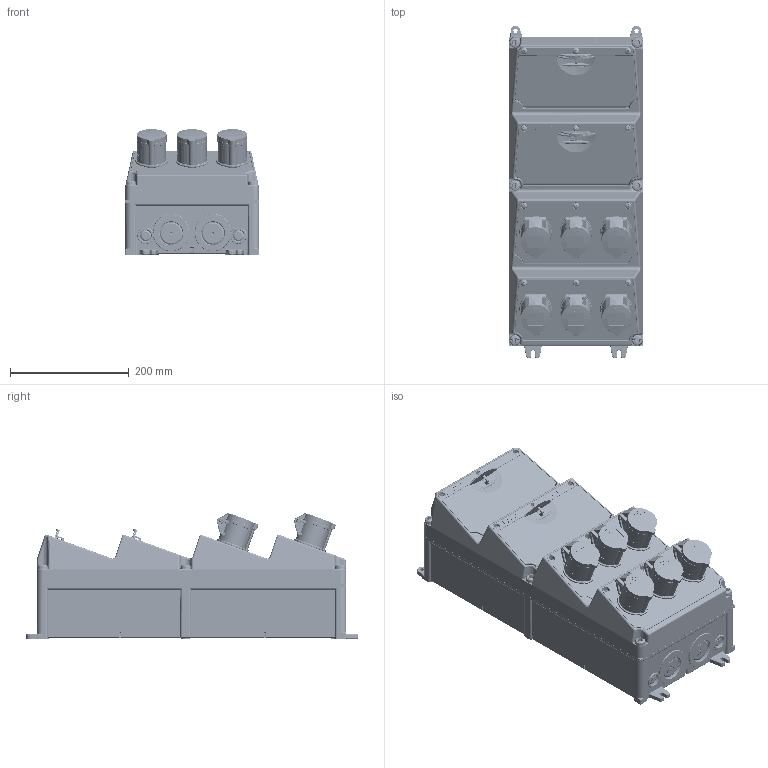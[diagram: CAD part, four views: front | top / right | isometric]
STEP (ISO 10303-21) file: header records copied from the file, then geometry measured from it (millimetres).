
FILE_DESCRIPTION((''),'2;1');
FILE_NAME('940024-1_ASM_1_ASM','2018-06-12T',('prakek'),('MENNEKES'),'PRO/ENGINEER BY PARAMETRIC TECHNOLOGY CORPORATION, 2015440','PRO/ENGINEER BY PARAMETRIC TECHNOLOGY CORPORATION, 2015440','');
FILE_SCHEMA(('AUTOMOTIVE_DESIGN { 1 0 10303 214 1 1 1 1 }'));
Products named in the file (12): 4-4_SW_O_GRAU_1; MP_FEN10_44_OBEN_GRAU_1; MP_LEER_GRAU_1; MANIFOLD_SOLID_BREP_333283; MANIFOLD_SOLID_BREP_421646; MANIFOLD_SOLID_BREP_421983; MANIFOLD_SOLID_BREP_424462; FI_4POL_4TE_1_ASM; LS_2POL_2TE_1; BAUTEIL_DUMMY__1; AMAXX_CEE_16_3_44_BLAU_1; 940024-1_ASM_1_ASM
Assembly tree (23 placements, depth 3):
  940024-1_ASM_1_ASM
    4-4_SW_O_GRAU_1
    MP_FEN10_44_OBEN_GRAU_1  x2
    MP_LEER_GRAU_1  x2
    FI_4POL_4TE_1_ASM
      MANIFOLD_SOLID_BREP_333283
      MANIFOLD_SOLID_BREP_421646
      MANIFOLD_SOLID_BREP_421983
      MANIFOLD_SOLID_BREP_424462
    LS_2POL_2TE_1  x6
    BAUTEIL_DUMMY__1
    AMAXX_CEE_16_3_44_BLAU_1  x6
Bounding box: 225 x 558.2 x 211.23 mm (x, y, z)
Volume: 13927019.8 mm3; surface area: 1481641.1 mm2
Topology: 21 solids, 21 shells, 14900 faces, 41385 edges, 26487 vertices
Faces by surface type: plane 7068, cylinder 4349, bspline 1275, torus 1181, cone 456, sphere 299, extrusion 272
Entity records: 441609 total; most frequent: CARTESIAN_POINT 130424, ORIENTED_EDGE 50858, DIRECTION 44298, EDGE_CURVE 25429, VERTEX_POINT 16185, AXIS2_PLACEMENT_3D 15050, VECTOR 14198, LINE 14082
